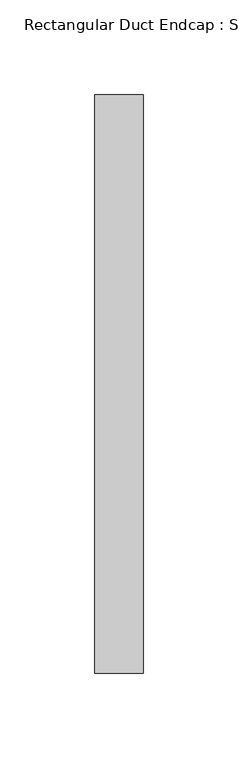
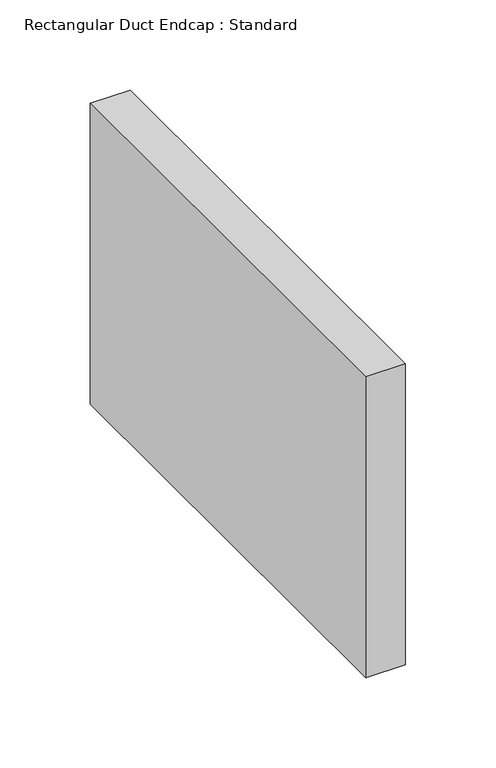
"""IFC4 building model written with IfcOpenShell, lengths in millimetres: duct fitting geometry, Rectangular Duct Endcap : Standard."""

import ifcopenshell
import ifcopenshell.guid

model = None  # the IFC model being written
_history = None  # IfcOwnerHistory: only IFC2X3 demands one
_inside = {}  # id of a spatial element -> (the spatial element, [elements in it])
_under = {}  # id of a project, library or spatial element -> (it, [spatial elements below it])
_declared = {}  # id of a project -> (the project, [libraries it declares])
_typed = {}  # id of a type object -> (the type object, [elements of that type])
_made_of = {}  # id of a material, layer set ... -> (it, [elements and type objects made of it])


def new_model(schema):
    """Start an empty IFC model of exactly this schema.

    Asked for "IFC4X3", IfcOpenShell would pick the latest addendum, in which some entities
    have other attributes; the version numbers below select the first issue.
    IFC2X3 requires an IfcOwnerHistory on every rooted entity: one is made here for all.
    """
    global model, _history
    if schema == "IFC4X3":
        model = ifcopenshell.file(schema_version=(4, 3, 0, 0))
    else:
        model = ifcopenshell.file(schema=schema)
    _inside.clear()
    _under.clear()
    _declared.clear()
    _typed.clear()
    _made_of.clear()
    _history = None
    if model.schema == "IFC2X3":
        org = make("IfcOrganization", Name="unknown")
        user = make(
            "IfcPersonAndOrganization",
            ThePerson=make("IfcPerson", FamilyName="unknown"),
            TheOrganization=org,
        )
        app = make(
            "IfcApplication",
            ApplicationDeveloper=org,
            Version="unknown",
            ApplicationFullName="unknown",
            ApplicationIdentifier="unknown",
        )
        _history = make(
            "IfcOwnerHistory",
            OwningUser=user,
            OwningApplication=app,
            ChangeAction="ADDED",
            CreationDate=0,
        )
    return model


def make(cls, **values):
    """One entity of the class cls with the attributes given. An attribute that is None is left unset."""
    return model.create_entity(
        cls, **{name: value for name, value in values.items() if value is not None}
    )


def rooted(cls, **values):
    """An entity with a GlobalId (a new one), such as an element, a storey or a relation."""
    return make(cls, GlobalId=ifcopenshell.guid.new(), OwnerHistory=_history, **values)


def si_unit(unit_type, name, prefix=None):
    """IfcSIUnit, for example si_unit("LENGTHUNIT", "METRE", prefix="MILLI")."""
    return make("IfcSIUnit", UnitType=unit_type, Prefix=prefix, Name=name)


def assignment(units):
    """IfcUnitAssignment: the units of a project."""
    return None if units is None else make("IfcUnitAssignment", Units=units)


def point(xyz):
    """IfcCartesianPoint."""
    return None if xyz is None else make("IfcCartesianPoint", Coordinates=xyz)


def direction(xyz):
    """IfcDirection."""
    return None if xyz is None else make("IfcDirection", DirectionRatios=xyz)


def frame(location, z_axis=None, x_axis=None):
    """IfcAxis2Placement3D, a coordinate frame: its origin and axes. An axis left out is left unset."""
    return make(
        "IfcAxis2Placement3D",
        Location=point(location),
        Axis=direction(z_axis),
        RefDirection=direction(x_axis),
    )


def origin():
    """The frame at (0, 0, 0) with its axes left unset."""
    return frame((0.0, 0.0, 0.0))


def place(relative_to, where):
    """IfcLocalPlacement: puts the frame where relative to a parent placement (None: the world)."""
    return make(
        "IfcLocalPlacement", PlacementRelTo=relative_to, RelativePlacement=where
    )


def context(
    kind, dimensions, precision=None, world=None, true_north=None, identifier=None
):
    """IfcGeometricRepresentationContext, for example the 3D "Model" context."""
    return make(
        "IfcGeometricRepresentationContext",
        ContextIdentifier=identifier,
        ContextType=kind,
        CoordinateSpaceDimension=dimensions,
        Precision=precision,
        WorldCoordinateSystem=world,
        TrueNorth=true_north,
    )


def project(units=None, contexts=None):
    """IfcProject with its units and contexts."""
    return rooted(
        "IfcProject",
        Name="project",
        RepresentationContexts=contexts,
        UnitsInContext=assignment(units),
    )


def spatial(cls, under=None, at=None, **own):
    """A site, building, storey or space (cls), placed at a placement, below another one or the project."""
    s = rooted(cls, ObjectPlacement=at, **own)
    if under is not None:
        _under.setdefault(under.id(), (under, []))[1].append(s)
    return s


def polyline(points):
    """IfcPolyline through the points."""
    return make("IfcPolyline", Points=[point(p) for p in points])


def outline(outer, holes=None, kind="AREA"):
    """IfcArbitraryClosedProfileDef: a profile drawn as a closed curve; with holes, ...WithVoids."""
    if holes is None:
        return make("IfcArbitraryClosedProfileDef", ProfileType=kind, OuterCurve=outer)
    return make(
        "IfcArbitraryProfileDefWithVoids",
        ProfileType=kind,
        OuterCurve=outer,
        InnerCurves=holes,
    )


def extrude(swept, where, along, depth):
    """IfcExtrudedAreaSolid: the profile swept, set in the frame where, extruded along a direction by depth."""
    return make(
        "IfcExtrudedAreaSolid",
        SweptArea=swept,
        Position=where,
        ExtrudedDirection=direction(along),
        Depth=depth,
    )


def shape(context_of_items, identifier, shape_type, items):
    """IfcShapeRepresentation: the items that make up one representation, for example the "Body"."""
    return make(
        "IfcShapeRepresentation",
        ContextOfItems=context_of_items,
        RepresentationIdentifier=identifier,
        RepresentationType=shape_type,
        Items=items,
    )


def source(mapping_origin, context_of_items, identifier, shape_type, items):
    """IfcRepresentationMap: a shape defined once, which mapped items show again and again."""
    return make(
        "IfcRepresentationMap",
        MappingOrigin=mapping_origin,
        MappedRepresentation=shape(context_of_items, identifier, shape_type, items),
    )


def transform(
    local_origin,
    x_axis=None,
    y_axis=None,
    z_axis=None,
    scale=None,
    scale2=None,
    scale3=None,
    uniform=True,
):
    """IfcCartesianTransformationOperator3D, or its non-uniform kind. x_axis, y_axis, z_axis: its Axis1, 2, 3."""
    if uniform:
        return make(
            "IfcCartesianTransformationOperator3D",
            Axis1=direction(x_axis),
            Axis2=direction(y_axis),
            LocalOrigin=point(local_origin),
            Scale=scale,
            Axis3=direction(z_axis),
        )
    return make(
        "IfcCartesianTransformationOperator3DnonUniform",
        Axis1=direction(x_axis),
        Axis2=direction(y_axis),
        LocalOrigin=point(local_origin),
        Scale=scale,
        Axis3=direction(z_axis),
        Scale2=scale2,
        Scale3=scale3,
    )


def mapped(mapping_source, mapping_target):
    """IfcMappedItem: shows the shape of a source again, moved by a transform."""
    return make(
        "IfcMappedItem", MappingSource=mapping_source, MappingTarget=mapping_target
    )


def made_of(thing, what):
    """Note that an element or type object is made of a material, layer set ...; save() writes the relation."""
    if what is not None:
        _made_of.setdefault(what.id(), (what, []))[1].append(thing)
    return thing


def element(
    cls,
    number,
    at=None,
    inside=None,
    cuts=None,
    type_object=None,
    material=None,
    context=None,
    identifier="Body",
    shape_type=None,
    held_by="IfcProductDefinitionShape",
    body=None,
    shapes=None,
    **own,
):
    """One element of the class cls, such as IfcWall. Its Tag is "e" and its number.

    at: its placement. inside: the storey or other place that contains it. cuts: it is an
    opening in that element (IfcRelVoidsElement). A single representation is given by context,
    identifier, shape_type and body (its items); several are given by shapes. held_by: the class
    of the entity that holds the representations. save() writes the other relations.
    """
    e = rooted(cls, Tag="e%d" % number, ObjectPlacement=at, **own)
    if body is not None:
        shapes = [shape(context, identifier, shape_type, body)]
    if shapes is not None:
        e.Representation = make(held_by, Representations=shapes)
    if inside is not None:
        _inside.setdefault(inside.id(), (inside, []))[1].append(e)
    if cuts is not None:
        rooted(
            "IfcRelVoidsElement", RelatingBuildingElement=cuts, RelatedOpeningElement=e
        )
    if type_object is not None:
        _typed.setdefault(type_object.id(), (type_object, []))[1].append(e)
    return made_of(e, material)


def aggregate(whole, parts):
    """IfcRelAggregates: a whole, such as a stair, and the parts it consists of."""
    return rooted("IfcRelAggregates", RelatingObject=whole, RelatedObjects=parts)


def save(model, path):
    """Write the relations noted so far, then the file.

    IfcRelAggregates (storeys below a building ...), IfcRelContainedInSpatialStructure (elements
    in a storey), IfcRelDefinesByType, IfcRelAssociatesMaterial and IfcRelDeclares: one each for
    every whole, place, type object, material and project.
    """
    for whole, parts in _under.values():
        aggregate(whole, parts)
    for where, things in _inside.values():
        rooted(
            "IfcRelContainedInSpatialStructure",
            RelatedElements=things,
            RelatingStructure=where,
        )
    for kind, things in _typed.values():
        rooted("IfcRelDefinesByType", RelatedObjects=things, RelatingType=kind)
    for what, things in _made_of.values():
        rooted("IfcRelAssociatesMaterial", RelatedObjects=things, RelatingMaterial=what)
    for by, libraries in _declared.values():
        rooted("IfcRelDeclares", RelatingContext=by, RelatedDefinitions=libraries)
    model.write(path)


def rectangular_duct_endcap_standard_9757fa8c(model_context):
    return source(origin(), model_context, "Body", "SweptSolid", [
        extrude(outline(polyline([(0.0, -152.4), (0.0, 152.4), (25.4, 152.4), (25.4, -152.4), (0.0, -152.4)])), frame((0.0, 0.0, -101.6), z_axis=(0.0, 0.0, 1.0), x_axis=(1.0, 0.0, 0.0)), (0.0, 0.0, 1.0), 203.2),
        extrude(outline(polyline([(0.0, -152.4), (0.0, 152.4), (25.4, 152.4), (25.4, -152.4), (0.0, -152.4)])), frame((0.0, 0.0, -101.6), z_axis=(0.0, 0.0, 1.0), x_axis=(1.0, 0.0, 0.0)), (0.0, 0.0, 1.0), 203.2),
        extrude(outline(polyline([(0.0, -152.4), (0.0, 152.4), (25.4, 152.4), (25.4, -152.4), (0.0, -152.4)])), frame((0.0, 0.0, -101.6), z_axis=(0.0, 0.0, 1.0), x_axis=(1.0, 0.0, 0.0)), (0.0, 0.0, 1.0), 203.2),
    ])


if __name__ == "__main__":
    model = new_model("IFC4")
    model_context = context("Model", 3, world=origin())
    ifc_project = project(units=[si_unit("LENGTHUNIT", "METRE", prefix="MILLI")], contexts=[model_context])
    site = spatial("IfcSite", under=ifc_project)
    building = spatial("IfcBuilding", under=site)
    placement = place(None, origin())
    rectangular_duct_endcap_standard_shape = rectangular_duct_endcap_standard_9757fa8c(model_context)
    element("IfcDuctFitting", 1, ObjectType="Rectangular Duct Endcap : Standard", at=placement, inside=building, context=model_context, shape_type="MappedRepresentation", body=[
        mapped(rectangular_duct_endcap_standard_shape, transform((0.0, 0.0, 0.0), x_axis=(1.0, 0.0, 0.0), y_axis=(0.0, 1.0, 0.0), z_axis=(0.0, 0.0, 1.0))),
    ])
    save(model, "model.ifc")
